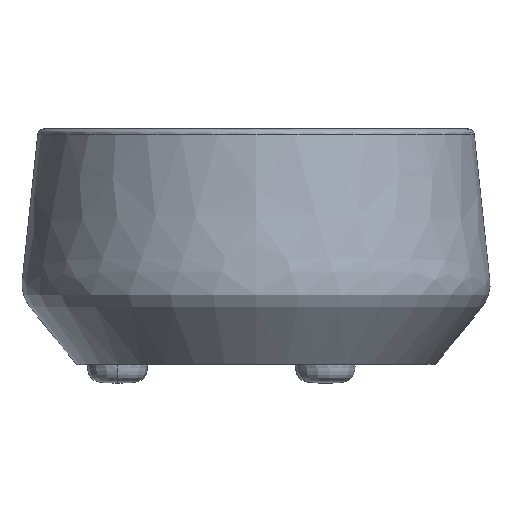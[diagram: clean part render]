
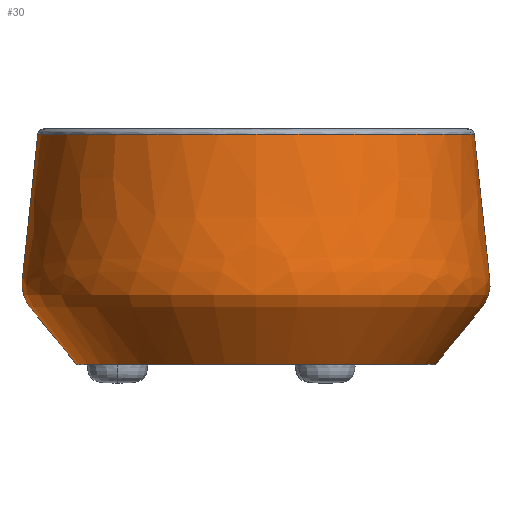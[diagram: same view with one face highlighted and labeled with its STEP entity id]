
A CAD part, left-side view. The second image highlights one B-rep face of the part: STEP entity #30.
In plain terms, the highlighted free-form (B-spline) face has degree [2, 2] with [5, 9] control points.
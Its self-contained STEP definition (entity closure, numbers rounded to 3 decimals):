
#30=ADVANCED_FACE('',(#55),#421,.T.);
#55=FACE_OUTER_BOUND('',#82,.T.);
#82=EDGE_LOOP('',(#142,#143,#144,#145));
#142=ORIENTED_EDGE('',*,*,#261,.T.);
#143=ORIENTED_EDGE('',*,*,#234,.F.);
#144=ORIENTED_EDGE('',*,*,#236,.F.);
#145=ORIENTED_EDGE('',*,*,#263,.F.);
#234=EDGE_CURVE('',#390,#397,#304,.T.);
#236=EDGE_CURVE('',#381,#390,#280,.T.);
#261=EDGE_CURVE('',#396,#397,#286,.T.);
#263=EDGE_CURVE('',#396,#381,#323,.T.);
#280=(
BOUNDED_CURVE()
B_SPLINE_CURVE(2,(#1227,#1228,#1229,#1230,#1231,#1232,#1233),
 .UNSPECIFIED.,.F.,.F.)
B_SPLINE_CURVE_WITH_KNOTS((3,2,2,3),(21.584,237.023,
292.265,433.233),.UNSPECIFIED.)
CURVE()
GEOMETRIC_REPRESENTATION_ITEM()
RATIONAL_B_SPLINE_CURVE((1.,1.,1.,0.923,1.,1.,1.))
REPRESENTATION_ITEM('')
);
#286=(
BOUNDED_CURVE()
B_SPLINE_CURVE(2,(#1313,#1314,#1315,#1316,#1317,#1318,#1319),
 .UNSPECIFIED.,.F.,.F.)
B_SPLINE_CURVE_WITH_KNOTS((3,2,2,3),(21.584,237.023,
292.265,433.233),.UNSPECIFIED.)
CURVE()
GEOMETRIC_REPRESENTATION_ITEM()
RATIONAL_B_SPLINE_CURVE((1.,1.,1.,0.923,1.,1.,1.))
REPRESENTATION_ITEM('')
);
#304=TRIMMED_CURVE($,#340,(#1222),(#1223),.T.,.CARTESIAN.);
#323=TRIMMED_CURVE($,#359,(#1324),(#1325),.T.,.CARTESIAN.);
#340=CIRCLE('',#536,345.289);
#359=CIRCLE('',#555,419.743);
#381=VERTEX_POINT('',#1127);
#390=VERTEX_POINT('',#1136);
#396=VERTEX_POINT('',#1142);
#397=VERTEX_POINT('',#1143);
#421=(
BOUNDED_SURFACE()
B_SPLINE_SURFACE(2,2,((#852,#853,#854,#855,#856,#857,#858,#859,#860),(#861,
#862,#863,#864,#865,#866,#867,#868,#869),(#870,#871,#872,#873,#874,#875,
#876,#877,#878),(#879,#880,#881,#882,#883,#884,#885,#886,#887),(#888,#889,
#890,#891,#892,#893,#894,#895,#896)),.UNSPECIFIED.,.F.,.F.,.F.)
B_SPLINE_SURFACE_WITH_KNOTS((3,2,3),(3,2,2,2,3),(0.,706.279,1412.557),
(10.792,21.584,237.023,292.265,434.184),
 .UNSPECIFIED.)
GEOMETRIC_REPRESENTATION_ITEM()
RATIONAL_B_SPLINE_SURFACE(((1.,1.,1.,1.,1.,0.923,1.,1.,1.),
(0.707,0.707,0.707,0.707,
0.707,0.653,0.707,0.707,
0.707),(1.,1.,1.,1.,1.,0.923,1.,1.,1.),(0.707,
0.707,0.707,0.707,0.707,
0.653,0.707,0.707,0.707),
(1.,1.,1.,1.,1.,0.923,1.,1.,1.)))
REPRESENTATION_ITEM('')
SURFACE()
);
#536=AXIS2_PLACEMENT_3D($,#1221,#593,#594);
#555=AXIS2_PLACEMENT_3D($,#1323,#631,#632);
#593=DIRECTION('',(0.,0.,-1.));
#594=DIRECTION('',(0.,-1.,0.));
#631=DIRECTION('',(0.,0.,1.));
#632=DIRECTION('',(0.,1.,0.));
#852=CARTESIAN_POINT('',(492.994,1874.099,481.413));
#853=CARTESIAN_POINT('',(492.994,1873.528,476.048));
#854=CARTESIAN_POINT('',(492.994,1872.958,470.682));
#855=CARTESIAN_POINT('',(492.994,1858.026,330.207));
#856=CARTESIAN_POINT('',(492.994,1843.093,189.733));
#857=CARTESIAN_POINT('',(492.994,1840.012,160.747));
#858=CARTESIAN_POINT('',(492.994,1858.415,138.141));
#859=CARTESIAN_POINT('',(492.994,1903.214,83.11));
#860=CARTESIAN_POINT('',(492.994,1948.012,28.08));
#861=CARTESIAN_POINT('',(74.392,1874.099,481.413));
#862=CARTESIAN_POINT('',(73.821,1873.528,476.048));
#863=CARTESIAN_POINT('',(73.251,1872.958,470.682));
#864=CARTESIAN_POINT('',(58.319,1858.026,330.207));
#865=CARTESIAN_POINT('',(43.386,1843.093,189.733));
#866=CARTESIAN_POINT('',(40.305,1840.012,160.747));
#867=CARTESIAN_POINT('',(58.708,1858.415,138.141));
#868=CARTESIAN_POINT('',(103.507,1903.214,83.11));
#869=CARTESIAN_POINT('',(148.305,1948.012,28.08));
#870=CARTESIAN_POINT('',(74.392,2292.701,481.413));
#871=CARTESIAN_POINT('',(73.821,2292.701,476.048));
#872=CARTESIAN_POINT('',(73.251,2292.701,470.682));
#873=CARTESIAN_POINT('',(58.319,2292.701,330.207));
#874=CARTESIAN_POINT('',(43.386,2292.701,189.733));
#875=CARTESIAN_POINT('',(40.305,2292.701,160.747));
#876=CARTESIAN_POINT('',(58.708,2292.701,138.141));
#877=CARTESIAN_POINT('',(103.507,2292.701,83.11));
#878=CARTESIAN_POINT('',(148.305,2292.701,28.08));
#879=CARTESIAN_POINT('',(74.392,2711.304,481.413));
#880=CARTESIAN_POINT('',(73.821,2711.874,476.048));
#881=CARTESIAN_POINT('',(73.251,2712.444,470.682));
#882=CARTESIAN_POINT('',(58.319,2727.377,330.207));
#883=CARTESIAN_POINT('',(43.386,2742.309,189.733));
#884=CARTESIAN_POINT('',(40.305,2745.39,160.747));
#885=CARTESIAN_POINT('',(58.708,2726.987,138.141));
#886=CARTESIAN_POINT('',(103.507,2682.189,83.11));
#887=CARTESIAN_POINT('',(148.305,2637.39,28.08));
#888=CARTESIAN_POINT('',(492.994,2711.304,481.413));
#889=CARTESIAN_POINT('',(492.994,2711.874,476.048));
#890=CARTESIAN_POINT('',(492.994,2712.444,470.682));
#891=CARTESIAN_POINT('',(492.994,2727.377,330.207));
#892=CARTESIAN_POINT('',(492.994,2742.309,189.733));
#893=CARTESIAN_POINT('',(492.994,2745.39,160.747));
#894=CARTESIAN_POINT('',(492.994,2726.987,138.141));
#895=CARTESIAN_POINT('',(492.994,2682.189,83.11));
#896=CARTESIAN_POINT('',(492.994,2637.39,28.08));
#1127=CARTESIAN_POINT('',(492.994,1872.958,470.682));
#1136=CARTESIAN_POINT('',(492.994,1947.412,28.817));
#1142=CARTESIAN_POINT('',(492.994,2712.444,470.682));
#1143=CARTESIAN_POINT('',(492.994,2637.99,28.817));
#1221=CARTESIAN_POINT('',(492.994,2292.701,28.817));
#1222=CARTESIAN_POINT('',(492.994,1947.412,28.817));
#1223=CARTESIAN_POINT('',(492.994,2637.99,28.817));
#1227=CARTESIAN_POINT('',(492.994,1872.958,470.682));
#1228=CARTESIAN_POINT('',(492.994,1858.026,330.207));
#1229=CARTESIAN_POINT('',(492.994,1843.093,189.733));
#1230=CARTESIAN_POINT('',(492.994,1840.012,160.747));
#1231=CARTESIAN_POINT('',(492.994,1858.415,138.141));
#1232=CARTESIAN_POINT('',(492.994,1902.913,83.479));
#1233=CARTESIAN_POINT('',(492.994,1947.412,28.817));
#1313=CARTESIAN_POINT('',(492.994,2712.444,470.682));
#1314=CARTESIAN_POINT('',(492.994,2727.377,330.207));
#1315=CARTESIAN_POINT('',(492.994,2742.309,189.733));
#1316=CARTESIAN_POINT('',(492.994,2745.39,160.747));
#1317=CARTESIAN_POINT('',(492.994,2726.987,138.141));
#1318=CARTESIAN_POINT('',(492.994,2682.489,83.479));
#1319=CARTESIAN_POINT('',(492.994,2637.99,28.817));
#1323=CARTESIAN_POINT('',(492.994,2292.701,470.682));
#1324=CARTESIAN_POINT('',(492.994,2712.444,470.682));
#1325=CARTESIAN_POINT('',(492.994,1872.958,470.682));
